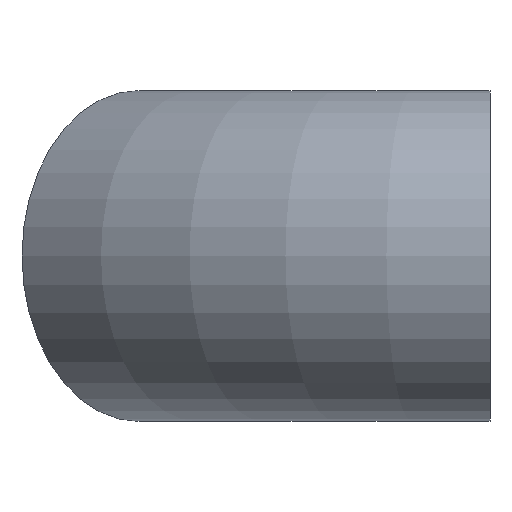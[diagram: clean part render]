
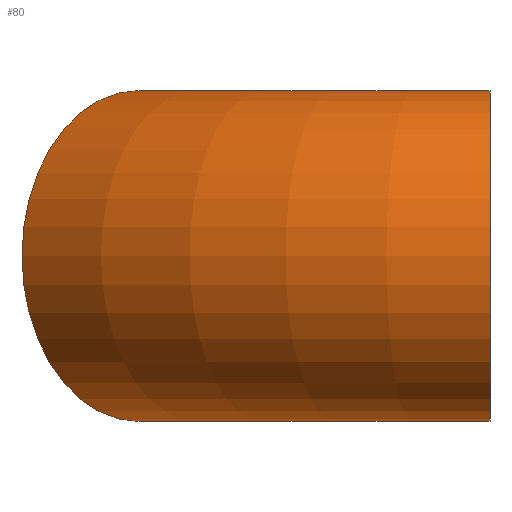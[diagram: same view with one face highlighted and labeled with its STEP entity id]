
A CAD part, left-side view. The second image highlights one B-rep face of the part: STEP entity #80.
In plain terms, the highlighted toroidal (fillet/blend) face has major radius 685.8 mm and minor radius 228.6 mm.
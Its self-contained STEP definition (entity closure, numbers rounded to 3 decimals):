
#20=FACE_OUTER_BOUND('',#24,.T.);
#24=EDGE_LOOP('',(#63,#64,#65,#66,#67,#68));
#34=CIRCLE('',#110,228.6);
#35=CIRCLE('',#111,228.6);
#36=CIRCLE('',#112,457.2);
#37=CIRCLE('',#113,228.6);
#38=CIRCLE('',#114,228.6);
#43=VERTEX_POINT('',#159);
#44=VERTEX_POINT('',#160);
#45=VERTEX_POINT('',#163);
#46=VERTEX_POINT('',#165);
#52=EDGE_CURVE('',#43,#44,#34,.T.);
#53=EDGE_CURVE('',#44,#43,#35,.T.);
#54=EDGE_CURVE('',#44,#45,#36,.T.);
#55=EDGE_CURVE('',#45,#46,#37,.T.);
#56=EDGE_CURVE('',#46,#45,#38,.T.);
#63=ORIENTED_EDGE('',*,*,#52,.F.);
#64=ORIENTED_EDGE('',*,*,#53,.F.);
#65=ORIENTED_EDGE('',*,*,#54,.T.);
#66=ORIENTED_EDGE('',*,*,#55,.T.);
#67=ORIENTED_EDGE('',*,*,#56,.T.);
#68=ORIENTED_EDGE('',*,*,#54,.F.);
#78=TOROIDAL_SURFACE('',#109,685.8,228.6);
#80=ADVANCED_FACE('',(#20),#78,.T.);
#109=AXIS2_PLACEMENT_3D('',#158,#131,#132);
#110=AXIS2_PLACEMENT_3D('',#161,#133,#134);
#111=AXIS2_PLACEMENT_3D('',#162,#135,#136);
#112=AXIS2_PLACEMENT_3D('',#164,#137,#138);
#113=AXIS2_PLACEMENT_3D('',#166,#139,#140);
#114=AXIS2_PLACEMENT_3D('',#167,#141,#142);
#131=DIRECTION('center_axis',(0.,0.,-1.));
#132=DIRECTION('ref_axis',(-1.,0.,0.));
#133=DIRECTION('center_axis',(0.707,0.707,0.));
#134=DIRECTION('ref_axis',(-0.707,0.707,0.));
#135=DIRECTION('center_axis',(0.707,0.707,0.));
#136=DIRECTION('ref_axis',(-0.707,0.707,0.));
#137=DIRECTION('center_axis',(0.,0.,1.));
#138=DIRECTION('ref_axis',(-1.,0.,0.));
#139=DIRECTION('center_axis',(0.,1.,0.));
#140=DIRECTION('ref_axis',(-1.,0.,0.));
#141=DIRECTION('center_axis',(0.,1.,0.));
#142=DIRECTION('ref_axis',(-1.,0.,0.));
#158=CARTESIAN_POINT('Origin',(0.,0.,0.));
#159=CARTESIAN_POINT('',(-646.578,646.578,0.));
#160=CARTESIAN_POINT('',(-323.289,323.289,0.));
#161=CARTESIAN_POINT('Origin',(-484.934,484.934,0.));
#162=CARTESIAN_POINT('Origin',(-484.934,484.934,0.));
#163=CARTESIAN_POINT('',(-457.2,0.,0.));
#164=CARTESIAN_POINT('Origin',(0.,0.,0.));
#165=CARTESIAN_POINT('',(-914.4,0.,0.));
#166=CARTESIAN_POINT('Origin',(-685.8,0.,0.));
#167=CARTESIAN_POINT('Origin',(-685.8,0.,0.));
